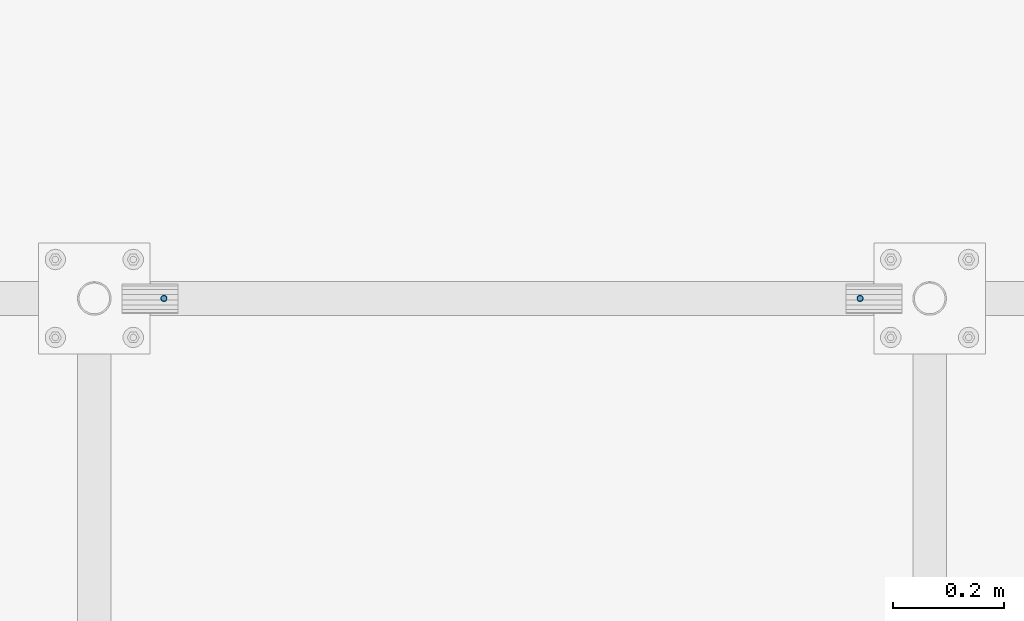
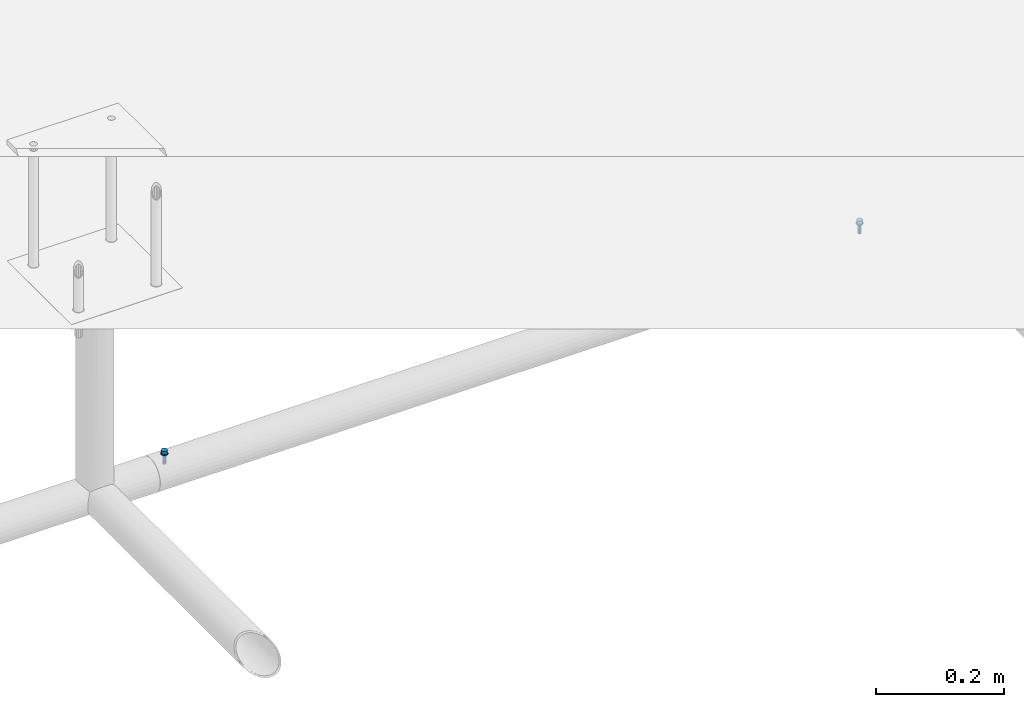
# One storey, part 9 of 30: 2 mechanical fasteners.
"""IFC2X3 building model written with IfcOpenShell, lengths in millimetres."""

from ifc_helpers import new_model, entity, si_unit, converted_unit, origin_with_axes, place, context, project, spatial, faceted_brep, element, save


model = new_model("IFC2X3")

# Units and contexts
model_context = context("Model", 3, precision=1e-09, world=origin_with_axes())
ifc_project = project(units=[si_unit("LENGTHUNIT", "METRE", prefix="MILLI"), si_unit("AREAUNIT", "SQUARE_METRE"), si_unit("VOLUMEUNIT", "CUBIC_METRE"), converted_unit("PLANEANGLEUNIT", "DEGREE", entity("IfcPlaneAngleMeasure", 0.01745329), si_unit("PLANEANGLEUNIT", "RADIAN"), dimensions=[0, 0, 0, 0, 0, 0, 0])], contexts=[model_context])

# Site, building, storey
site_placement = place(None, origin_with_axes())
site = spatial("IfcSite", under=ifc_project, at=site_placement, Name="M?nsinger Stra?e, 81477 M?nchen", CompositionType="ELEMENT")
building_placement = place(site_placement, origin_with_axes())
building = spatial("IfcBuilding", under=site, at=building_placement, Name="Struktur 1", CompositionType="ELEMENT")
storey_placement = place(building_placement, origin_with_axes())
storey = spatial("IfcBuildingStorey", under=building, at=storey_placement, Name="Default Storey", CompositionType="ELEMENT", Elevation=0.0)

# Mechanical fasteners
mechanical_fastener_1_placement = place(None, origin_with_axes())
element("IfcMechanicalFastener", 1, at=mechanical_fastener_1_placement, inside=storey, ObjectType="-", NominalDiameter=6.0, NominalLength=20.0, context=model_context, shape_type="Brep", body=[
    faceted_brep([(3025.315117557, 4491.2632594, 6141.75), (3025.315117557, 4491.2632594, 6140.15), (3025.430405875, 4490.092717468, 6140.15), (3025.430405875, 4490.092717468, 6141.75), (3025.771840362, 4488.967158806, 6140.15), (3025.771840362, 4488.967158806, 6141.75), (3026.326299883, 4487.929838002, 6140.15), (3026.326299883, 4487.929838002, 6141.75), (3027.07247687, 4487.020618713, 6140.15), (3027.07247687, 4487.020618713, 6141.75), (3027.981696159, 4486.274441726, 6140.15), (3027.981696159, 4486.274441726, 6141.75), (3029.019016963, 4485.719982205, 6140.15), (3029.019016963, 4485.719982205, 6141.75), (3030.144575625, 4485.378547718, 6140.15), (3030.144575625, 4485.378547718, 6141.75), (3031.315117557, 4485.2632594, 6140.15), (3031.315117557, 4485.2632594, 6141.75), (3032.485659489, 4485.378547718, 6140.15), (3032.485659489, 4485.378547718, 6141.75), (3033.611218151, 4485.719982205, 6140.15), (3033.611218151, 4485.719982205, 6141.75), (3034.648538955, 4486.274441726, 6140.15), (3034.648538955, 4486.274441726, 6141.75), (3035.557758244, 4487.020618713, 6140.15), (3035.557758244, 4487.020618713, 6141.75), (3036.303935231, 4487.929838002, 6140.15), (3036.303935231, 4487.929838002, 6141.75), (3036.858394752, 4488.967158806, 6140.15), (3036.858394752, 4488.967158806, 6141.75), (3037.199829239, 4490.092717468, 6140.15), (3037.199829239, 4490.092717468, 6141.75), (3037.315117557, 4491.2632594, 6140.15), (3037.315117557, 4491.2632594, 6141.75), (3037.199829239, 4492.433801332, 6140.15), (3037.199829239, 4492.433801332, 6141.75), (3036.858394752, 4493.559359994, 6140.15), (3036.858394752, 4493.559359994, 6141.75), (3036.303935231, 4494.596680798, 6140.15), (3036.303935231, 4494.596680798, 6141.75), (3035.557758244, 4495.505900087, 6140.15), (3035.557758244, 4495.505900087, 6141.75), (3034.648538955, 4496.252077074, 6140.15), (3034.648538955, 4496.252077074, 6141.75), (3033.611218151, 4496.806536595, 6140.15), (3033.611218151, 4496.806536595, 6141.75), (3032.485659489, 4497.147971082, 6140.15), (3032.485659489, 4497.147971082, 6141.75), (3031.315117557, 4497.2632594, 6140.15), (3031.315117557, 4497.2632594, 6141.75), (3030.144575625, 4497.147971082, 6140.15), (3030.144575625, 4497.147971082, 6141.75), (3029.019016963, 4496.806536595, 6140.15), (3029.019016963, 4496.806536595, 6141.75), (3027.981696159, 4496.252077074, 6140.15), (3027.981696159, 4496.252077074, 6141.75), (3027.07247687, 4495.505900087, 6140.15), (3027.07247687, 4495.505900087, 6141.75), (3026.326299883, 4494.596680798, 6140.15), (3026.326299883, 4494.596680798, 6141.75), (3025.771840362, 4493.559359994, 6140.15), (3025.771840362, 4493.559359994, 6141.75), (3025.430405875, 4492.433801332, 6140.15), (3025.430405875, 4492.433801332, 6141.75)], [[[0, 1, 2, 3]], [[3, 2, 4, 5]], [[5, 4, 6, 7]], [[7, 6, 8, 9]], [[9, 8, 10, 11]], [[11, 10, 12, 13]], [[13, 12, 14, 15]], [[15, 14, 16, 17]], [[17, 16, 18, 19]], [[19, 18, 20, 21]], [[21, 20, 22, 23]], [[23, 22, 24, 25]], [[25, 24, 26, 27]], [[27, 26, 28, 29]], [[29, 28, 30, 31]], [[31, 30, 32, 33]], [[33, 32, 34, 35]], [[35, 34, 36, 37]], [[37, 36, 38, 39]], [[39, 38, 40, 41]], [[41, 40, 42, 43]], [[43, 42, 44, 45]], [[45, 44, 46, 47]], [[47, 46, 48, 49]], [[49, 48, 50, 51]], [[51, 50, 52, 53]], [[53, 52, 54, 55]], [[55, 54, 56, 57]], [[57, 56, 58, 59]], [[59, 58, 60, 61]], [[61, 60, 62, 63]], [[63, 62, 1, 0]], [[0, 3, 5, 7, 9, 11, 13, 15, 17, 19, 21, 23, 25, 27, 29, 31, 33, 35, 37, 39, 41, 43, 45, 47, 49, 51, 53, 55, 57, 59, 61, 63]], [[1, 62, 60, 58, 56, 54, 52, 50, 48, 46, 44, 42, 40, 38, 36, 34, 32, 30, 28, 26, 24, 22, 20, 18, 16, 14, 12, 10, 8, 6, 4, 2]]]),
    faceted_brep([(3026.315117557, 4491.2632594, 6147.75), (3026.315117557, 4491.2632594, 6141.75), (3026.411191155, 4490.28780779, 6141.75), (3026.411191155, 4490.28780779, 6147.75), (3026.695719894, 4489.349842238, 6141.75), (3026.695719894, 4489.349842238, 6147.75), (3027.157769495, 4488.485408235, 6141.75), (3027.157769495, 4488.485408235, 6147.75), (3027.779583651, 4487.727725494, 6141.75), (3027.779583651, 4487.727725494, 6147.75), (3028.537266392, 4487.105911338, 6141.75), (3028.537266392, 4487.105911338, 6147.75), (3029.401700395, 4486.643861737, 6141.75), (3029.401700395, 4486.643861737, 6147.75), (3030.339665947, 4486.359332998, 6141.75), (3030.339665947, 4486.359332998, 6147.75), (3031.315117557, 4486.2632594, 6141.75), (3031.315117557, 4486.2632594, 6147.75), (3032.290569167, 4486.359332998, 6141.75), (3032.290569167, 4486.359332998, 6147.75), (3033.228534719, 4486.643861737, 6141.75), (3033.228534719, 4486.643861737, 6147.75), (3034.092968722, 4487.105911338, 6141.75), (3034.092968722, 4487.105911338, 6147.75), (3034.850651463, 4487.727725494, 6141.75), (3034.850651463, 4487.727725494, 6147.75), (3035.472465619, 4488.485408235, 6141.75), (3035.472465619, 4488.485408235, 6147.75), (3035.93451522, 4489.349842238, 6141.75), (3035.93451522, 4489.349842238, 6147.75), (3036.219043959, 4490.28780779, 6141.75), (3036.219043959, 4490.28780779, 6147.75), (3036.315117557, 4491.2632594, 6141.75), (3036.315117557, 4491.2632594, 6147.75), (3036.219043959, 4492.23871101, 6141.75), (3036.219043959, 4492.23871101, 6147.75), (3035.93451522, 4493.176676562, 6141.75), (3035.93451522, 4493.176676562, 6147.75), (3035.472465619, 4494.041110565, 6141.75), (3035.472465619, 4494.041110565, 6147.75), (3034.850651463, 4494.798793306, 6141.75), (3034.850651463, 4494.798793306, 6147.75), (3034.092968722, 4495.420607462, 6141.75), (3034.092968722, 4495.420607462, 6147.75), (3033.228534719, 4495.882657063, 6141.75), (3033.228534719, 4495.882657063, 6147.75), (3032.290569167, 4496.167185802, 6141.75), (3032.290569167, 4496.167185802, 6147.75), (3031.315117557, 4496.2632594, 6141.75), (3031.315117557, 4496.2632594, 6147.75), (3030.339665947, 4496.167185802, 6141.75), (3030.339665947, 4496.167185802, 6147.75), (3029.401700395, 4495.882657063, 6141.75), (3029.401700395, 4495.882657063, 6147.75), (3028.537266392, 4495.420607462, 6141.75), (3028.537266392, 4495.420607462, 6147.75), (3027.779583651, 4494.798793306, 6141.75), (3027.779583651, 4494.798793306, 6147.75), (3027.157769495, 4494.041110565, 6141.75), (3027.157769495, 4494.041110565, 6147.75), (3026.695719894, 4493.176676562, 6141.75), (3026.695719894, 4493.176676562, 6147.75), (3026.411191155, 4492.23871101, 6141.75), (3026.411191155, 4492.23871101, 6147.75)], [[[0, 1, 2, 3]], [[3, 2, 4, 5]], [[5, 4, 6, 7]], [[7, 6, 8, 9]], [[9, 8, 10, 11]], [[11, 10, 12, 13]], [[13, 12, 14, 15]], [[15, 14, 16, 17]], [[17, 16, 18, 19]], [[19, 18, 20, 21]], [[21, 20, 22, 23]], [[23, 22, 24, 25]], [[25, 24, 26, 27]], [[27, 26, 28, 29]], [[29, 28, 30, 31]], [[31, 30, 32, 33]], [[33, 32, 34, 35]], [[35, 34, 36, 37]], [[37, 36, 38, 39]], [[39, 38, 40, 41]], [[41, 40, 42, 43]], [[43, 42, 44, 45]], [[45, 44, 46, 47]], [[47, 46, 48, 49]], [[49, 48, 50, 51]], [[51, 50, 52, 53]], [[53, 52, 54, 55]], [[55, 54, 56, 57]], [[57, 56, 58, 59]], [[59, 58, 60, 61]], [[61, 60, 62, 63]], [[63, 62, 1, 0]], [[0, 3, 5, 7, 9, 11, 13, 15, 17, 19, 21, 23, 25, 27, 29, 31, 33, 35, 37, 39, 41, 43, 45, 47, 49, 51, 53, 55, 57, 59, 61, 63]], [[1, 62, 60, 58, 56, 54, 52, 50, 48, 46, 44, 42, 40, 38, 36, 34, 32, 30, 28, 26, 24, 22, 20, 18, 16, 14, 12, 10, 8, 6, 4, 2]]]),
    faceted_brep([(3028.315117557, 4491.2632594, 6140.15), (3028.315117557, 4491.2632594, 6130.585197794), (3028.543478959, 4490.115209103, 6130.585197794), (3028.543478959, 4490.115209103, 6140.15), (3029.193797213, 4489.141939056, 6130.585197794), (3029.193797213, 4489.141939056, 6140.15), (3030.16706726, 4488.491620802, 6130.585197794), (3030.16706726, 4488.491620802, 6140.15), (3031.315117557, 4488.2632594, 6130.585197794), (3031.315117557, 4488.2632594, 6140.15), (3032.463167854, 4488.491620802, 6130.585197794), (3032.463167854, 4488.491620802, 6140.15), (3033.436437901, 4489.141939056, 6130.585197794), (3033.436437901, 4489.141939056, 6140.15), (3034.086756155, 4490.115209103, 6130.585197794), (3034.086756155, 4490.115209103, 6140.15), (3034.315117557, 4491.2632594, 6130.585197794), (3034.315117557, 4491.2632594, 6140.15), (3034.086756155, 4492.411309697, 6130.585197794), (3034.086756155, 4492.411309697, 6140.15), (3033.436437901, 4493.384579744, 6130.585197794), (3033.436437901, 4493.384579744, 6140.15), (3032.463167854, 4494.034897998, 6130.585197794), (3032.463167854, 4494.034897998, 6140.15), (3031.315117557, 4494.2632594, 6130.585197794), (3031.315117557, 4494.2632594, 6140.15), (3030.16706726, 4494.034897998, 6130.585197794), (3030.16706726, 4494.034897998, 6140.15), (3029.193797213, 4493.384579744, 6130.585197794), (3029.193797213, 4493.384579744, 6140.15), (3028.543478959, 4492.411309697, 6130.585197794), (3028.543478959, 4492.411309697, 6140.15)], [[[0, 1, 2, 3]], [[3, 2, 4, 5]], [[5, 4, 6, 7]], [[7, 6, 8, 9]], [[9, 8, 10, 11]], [[11, 10, 12, 13]], [[13, 12, 14, 15]], [[15, 14, 16, 17]], [[17, 16, 18, 19]], [[19, 18, 20, 21]], [[21, 20, 22, 23]], [[23, 22, 24, 25]], [[25, 24, 26, 27]], [[27, 26, 28, 29]], [[29, 28, 30, 31]], [[31, 30, 1, 0]], [[0, 3, 5, 7, 9, 11, 13, 15, 17, 19, 21, 23, 25, 27, 29, 31]], [[1, 30, 28, 26, 24, 22, 20, 18, 16, 14, 12, 10, 8, 6, 4, 2]]]),
    faceted_brep([(3028.315117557, 4491.2632594, 6130.585197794), (3028.315117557, 4491.2632594, 6121.75), (3028.543478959, 4490.115209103, 6121.75), (3028.543478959, 4490.115209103, 6130.585197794), (3029.193797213, 4489.141939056, 6121.75), (3029.193797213, 4489.141939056, 6130.585197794), (3030.16706726, 4488.491620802, 6121.75), (3030.16706726, 4488.491620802, 6130.585197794), (3031.315117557, 4488.2632594, 6121.75), (3031.315117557, 4488.2632594, 6130.585197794), (3032.463167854, 4488.491620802, 6121.75), (3032.463167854, 4488.491620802, 6130.585197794), (3033.436437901, 4489.141939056, 6121.75), (3033.436437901, 4489.141939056, 6130.585197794), (3034.086756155, 4490.115209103, 6121.75), (3034.086756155, 4490.115209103, 6130.585197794), (3034.315117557, 4491.2632594, 6121.75), (3034.315117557, 4491.2632594, 6130.585197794), (3034.086756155, 4492.411309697, 6121.75), (3034.086756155, 4492.411309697, 6130.585197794), (3033.436437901, 4493.384579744, 6121.75), (3033.436437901, 4493.384579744, 6130.585197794), (3032.463167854, 4494.034897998, 6121.75), (3032.463167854, 4494.034897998, 6130.585197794), (3031.315117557, 4494.2632594, 6121.75), (3031.315117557, 4494.2632594, 6130.585197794), (3030.16706726, 4494.034897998, 6121.75), (3030.16706726, 4494.034897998, 6130.585197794), (3029.193797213, 4493.384579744, 6121.75), (3029.193797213, 4493.384579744, 6130.585197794), (3028.543478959, 4492.411309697, 6121.75), (3028.543478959, 4492.411309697, 6130.585197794)], [[[0, 1, 2, 3]], [[3, 2, 4, 5]], [[5, 4, 6, 7]], [[7, 6, 8, 9]], [[9, 8, 10, 11]], [[11, 10, 12, 13]], [[13, 12, 14, 15]], [[15, 14, 16, 17]], [[17, 16, 18, 19]], [[19, 18, 20, 21]], [[21, 20, 22, 23]], [[23, 22, 24, 25]], [[25, 24, 26, 27]], [[27, 26, 28, 29]], [[29, 28, 30, 31]], [[31, 30, 1, 0]], [[0, 3, 5, 7, 9, 11, 13, 15, 17, 19, 21, 23, 25, 27, 29, 31]], [[1, 30, 28, 26, 24, 22, 20, 18, 16, 14, 12, 10, 8, 6, 4, 2]]]),
])
mechanical_fastener_2_placement = place(None, origin_with_axes())
element("IfcMechanicalFastener", 2, at=mechanical_fastener_2_placement, inside=storey, ObjectType="-", NominalDiameter=6.0, NominalLength=20.0, context=model_context, shape_type="Brep", body=[
    faceted_brep([(4287.315117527, 4491.2632594, 6140.15), (4287.315117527, 4491.2632594, 6141.75), (4287.19982921, 4490.092717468, 6141.75), (4287.19982921, 4490.092717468, 6140.15), (4286.858394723, 4488.967158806, 6141.75), (4286.858394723, 4488.967158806, 6140.15), (4286.303935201, 4487.929838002, 6141.75), (4286.303935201, 4487.929838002, 6140.15), (4285.557758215, 4487.020618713, 6141.75), (4285.557758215, 4487.020618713, 6140.15), (4284.648538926, 4486.274441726, 6141.75), (4284.648538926, 4486.274441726, 6140.15), (4283.611218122, 4485.719982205, 6141.75), (4283.611218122, 4485.719982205, 6140.15), (4282.48565946, 4485.378547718, 6141.75), (4282.48565946, 4485.378547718, 6140.15), (4281.315117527, 4485.2632594, 6141.75), (4281.315117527, 4485.2632594, 6140.15), (4280.144575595, 4485.378547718, 6141.75), (4280.144575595, 4485.378547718, 6140.15), (4279.019016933, 4485.719982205, 6141.75), (4279.019016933, 4485.719982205, 6140.15), (4277.981696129, 4486.274441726, 6141.75), (4277.981696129, 4486.274441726, 6140.15), (4277.07247684, 4487.020618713, 6141.75), (4277.07247684, 4487.020618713, 6140.15), (4276.326299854, 4487.929838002, 6141.75), (4276.326299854, 4487.929838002, 6140.15), (4275.771840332, 4488.967158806, 6141.75), (4275.771840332, 4488.967158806, 6140.15), (4275.430405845, 4490.092717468, 6141.75), (4275.430405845, 4490.092717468, 6140.15), (4275.315117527, 4491.2632594, 6141.75), (4275.315117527, 4491.2632594, 6140.15), (4275.430405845, 4492.433801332, 6141.75), (4275.430405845, 4492.433801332, 6140.15), (4275.771840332, 4493.559359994, 6141.75), (4275.771840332, 4493.559359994, 6140.15), (4276.326299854, 4494.596680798, 6141.75), (4276.326299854, 4494.596680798, 6140.15), (4277.07247684, 4495.505900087, 6141.75), (4277.07247684, 4495.505900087, 6140.15), (4277.981696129, 4496.252077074, 6141.75), (4277.981696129, 4496.252077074, 6140.15), (4279.019016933, 4496.806536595, 6141.75), (4279.019016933, 4496.806536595, 6140.15), (4280.144575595, 4497.147971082, 6141.75), (4280.144575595, 4497.147971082, 6140.15), (4281.315117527, 4497.2632594, 6141.75), (4281.315117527, 4497.2632594, 6140.15), (4282.48565946, 4497.147971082, 6141.75), (4282.48565946, 4497.147971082, 6140.15), (4283.611218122, 4496.806536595, 6141.75), (4283.611218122, 4496.806536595, 6140.15), (4284.648538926, 4496.252077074, 6141.75), (4284.648538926, 4496.252077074, 6140.15), (4285.557758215, 4495.505900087, 6141.75), (4285.557758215, 4495.505900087, 6140.15), (4286.303935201, 4494.596680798, 6141.75), (4286.303935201, 4494.596680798, 6140.15), (4286.858394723, 4493.559359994, 6141.75), (4286.858394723, 4493.559359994, 6140.15), (4287.19982921, 4492.433801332, 6141.75), (4287.19982921, 4492.433801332, 6140.15)], [[[0, 1, 2, 3]], [[3, 2, 4, 5]], [[5, 4, 6, 7]], [[7, 6, 8, 9]], [[9, 8, 10, 11]], [[11, 10, 12, 13]], [[13, 12, 14, 15]], [[15, 14, 16, 17]], [[17, 16, 18, 19]], [[19, 18, 20, 21]], [[21, 20, 22, 23]], [[23, 22, 24, 25]], [[25, 24, 26, 27]], [[27, 26, 28, 29]], [[29, 28, 30, 31]], [[31, 30, 32, 33]], [[33, 32, 34, 35]], [[35, 34, 36, 37]], [[37, 36, 38, 39]], [[39, 38, 40, 41]], [[41, 40, 42, 43]], [[43, 42, 44, 45]], [[45, 44, 46, 47]], [[47, 46, 48, 49]], [[49, 48, 50, 51]], [[51, 50, 52, 53]], [[53, 52, 54, 55]], [[55, 54, 56, 57]], [[57, 56, 58, 59]], [[59, 58, 60, 61]], [[61, 60, 62, 63]], [[63, 62, 1, 0]], [[2, 1, 62, 60, 58, 56, 54, 52, 50, 48, 46, 44, 42, 40, 38, 36, 34, 32, 30, 28, 26, 24, 22, 20, 18, 16, 14, 12, 10, 8, 6, 4]], [[63, 0, 3, 5, 7, 9, 11, 13, 15, 17, 19, 21, 23, 25, 27, 29, 31, 33, 35, 37, 39, 41, 43, 45, 47, 49, 51, 53, 55, 57, 59, 61]]]),
    faceted_brep([(4286.315117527, 4491.2632594, 6141.75), (4286.315117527, 4491.2632594, 6147.75), (4286.219043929, 4490.28780779, 6147.75), (4286.219043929, 4490.28780779, 6141.75), (4285.93451519, 4489.349842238, 6147.75), (4285.93451519, 4489.349842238, 6141.75), (4285.472465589, 4488.485408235, 6147.75), (4285.472465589, 4488.485408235, 6141.75), (4284.850651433, 4487.727725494, 6147.75), (4284.850651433, 4487.727725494, 6141.75), (4284.092968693, 4487.105911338, 6147.75), (4284.092968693, 4487.105911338, 6141.75), (4283.228534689, 4486.643861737, 6147.75), (4283.228534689, 4486.643861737, 6141.75), (4282.290569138, 4486.359332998, 6147.75), (4282.290569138, 4486.359332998, 6141.75), (4281.315117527, 4486.2632594, 6147.75), (4281.315117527, 4486.2632594, 6141.75), (4280.339665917, 4486.359332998, 6147.75), (4280.339665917, 4486.359332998, 6141.75), (4279.401700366, 4486.643861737, 6147.75), (4279.401700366, 4486.643861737, 6141.75), (4278.537266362, 4487.105911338, 6147.75), (4278.537266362, 4487.105911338, 6141.75), (4277.779583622, 4487.727725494, 6147.75), (4277.779583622, 4487.727725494, 6141.75), (4277.157769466, 4488.485408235, 6147.75), (4277.157769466, 4488.485408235, 6141.75), (4276.695719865, 4489.349842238, 6147.75), (4276.695719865, 4489.349842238, 6141.75), (4276.411191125, 4490.28780779, 6147.75), (4276.411191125, 4490.28780779, 6141.75), (4276.315117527, 4491.2632594, 6147.75), (4276.315117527, 4491.2632594, 6141.75), (4276.411191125, 4492.23871101, 6147.75), (4276.411191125, 4492.23871101, 6141.75), (4276.695719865, 4493.176676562, 6147.75), (4276.695719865, 4493.176676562, 6141.75), (4277.157769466, 4494.041110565, 6147.75), (4277.157769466, 4494.041110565, 6141.75), (4277.779583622, 4494.798793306, 6147.75), (4277.779583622, 4494.798793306, 6141.75), (4278.537266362, 4495.420607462, 6147.75), (4278.537266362, 4495.420607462, 6141.75), (4279.401700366, 4495.882657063, 6147.75), (4279.401700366, 4495.882657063, 6141.75), (4280.339665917, 4496.167185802, 6147.75), (4280.339665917, 4496.167185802, 6141.75), (4281.315117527, 4496.2632594, 6147.75), (4281.315117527, 4496.2632594, 6141.75), (4282.290569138, 4496.167185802, 6147.75), (4282.290569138, 4496.167185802, 6141.75), (4283.228534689, 4495.882657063, 6147.75), (4283.228534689, 4495.882657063, 6141.75), (4284.092968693, 4495.420607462, 6147.75), (4284.092968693, 4495.420607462, 6141.75), (4284.850651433, 4494.798793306, 6147.75), (4284.850651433, 4494.798793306, 6141.75), (4285.472465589, 4494.041110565, 6147.75), (4285.472465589, 4494.041110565, 6141.75), (4285.93451519, 4493.176676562, 6147.75), (4285.93451519, 4493.176676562, 6141.75), (4286.219043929, 4492.23871101, 6147.75), (4286.219043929, 4492.23871101, 6141.75)], [[[0, 1, 2, 3]], [[3, 2, 4, 5]], [[5, 4, 6, 7]], [[7, 6, 8, 9]], [[9, 8, 10, 11]], [[11, 10, 12, 13]], [[13, 12, 14, 15]], [[15, 14, 16, 17]], [[17, 16, 18, 19]], [[19, 18, 20, 21]], [[21, 20, 22, 23]], [[23, 22, 24, 25]], [[25, 24, 26, 27]], [[27, 26, 28, 29]], [[29, 28, 30, 31]], [[31, 30, 32, 33]], [[33, 32, 34, 35]], [[35, 34, 36, 37]], [[37, 36, 38, 39]], [[39, 38, 40, 41]], [[41, 40, 42, 43]], [[43, 42, 44, 45]], [[45, 44, 46, 47]], [[47, 46, 48, 49]], [[49, 48, 50, 51]], [[51, 50, 52, 53]], [[53, 52, 54, 55]], [[55, 54, 56, 57]], [[57, 56, 58, 59]], [[59, 58, 60, 61]], [[61, 60, 62, 63]], [[63, 62, 1, 0]], [[2, 1, 62, 60, 58, 56, 54, 52, 50, 48, 46, 44, 42, 40, 38, 36, 34, 32, 30, 28, 26, 24, 22, 20, 18, 16, 14, 12, 10, 8, 6, 4]], [[63, 0, 3, 5, 7, 9, 11, 13, 15, 17, 19, 21, 23, 25, 27, 29, 31, 33, 35, 37, 39, 41, 43, 45, 47, 49, 51, 53, 55, 57, 59, 61]]]),
    faceted_brep([(4284.315117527, 4491.2632594, 6130.585197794), (4284.315117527, 4491.2632594, 6140.15), (4284.086756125, 4490.115209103, 6140.15), (4284.086756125, 4490.115209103, 6130.585197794), (4283.436437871, 4489.141939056, 6140.15), (4283.436437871, 4489.141939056, 6130.585197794), (4282.463167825, 4488.491620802, 6140.15), (4282.463167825, 4488.491620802, 6130.585197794), (4281.315117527, 4488.2632594, 6140.15), (4281.315117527, 4488.2632594, 6130.585197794), (4280.16706723, 4488.491620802, 6140.15), (4280.16706723, 4488.491620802, 6130.585197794), (4279.193797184, 4489.141939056, 6140.15), (4279.193797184, 4489.141939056, 6130.585197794), (4278.54347893, 4490.115209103, 6140.15), (4278.54347893, 4490.115209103, 6130.585197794), (4278.315117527, 4491.2632594, 6140.15), (4278.315117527, 4491.2632594, 6130.585197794), (4278.54347893, 4492.411309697, 6140.15), (4278.54347893, 4492.411309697, 6130.585197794), (4279.193797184, 4493.384579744, 6140.15), (4279.193797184, 4493.384579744, 6130.585197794), (4280.16706723, 4494.034897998, 6140.15), (4280.16706723, 4494.034897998, 6130.585197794), (4281.315117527, 4494.2632594, 6140.15), (4281.315117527, 4494.2632594, 6130.585197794), (4282.463167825, 4494.034897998, 6140.15), (4282.463167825, 4494.034897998, 6130.585197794), (4283.436437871, 4493.384579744, 6140.15), (4283.436437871, 4493.384579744, 6130.585197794), (4284.086756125, 4492.411309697, 6140.15), (4284.086756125, 4492.411309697, 6130.585197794)], [[[0, 1, 2, 3]], [[3, 2, 4, 5]], [[5, 4, 6, 7]], [[7, 6, 8, 9]], [[9, 8, 10, 11]], [[11, 10, 12, 13]], [[13, 12, 14, 15]], [[15, 14, 16, 17]], [[17, 16, 18, 19]], [[19, 18, 20, 21]], [[21, 20, 22, 23]], [[23, 22, 24, 25]], [[25, 24, 26, 27]], [[27, 26, 28, 29]], [[29, 28, 30, 31]], [[31, 30, 1, 0]], [[2, 1, 30, 28, 26, 24, 22, 20, 18, 16, 14, 12, 10, 8, 6, 4]], [[31, 0, 3, 5, 7, 9, 11, 13, 15, 17, 19, 21, 23, 25, 27, 29]]]),
    faceted_brep([(4284.315117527, 4491.2632594, 6121.75), (4284.315117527, 4491.2632594, 6130.585197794), (4284.086756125, 4490.115209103, 6130.585197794), (4284.086756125, 4490.115209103, 6121.75), (4283.436437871, 4489.141939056, 6130.585197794), (4283.436437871, 4489.141939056, 6121.75), (4282.463167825, 4488.491620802, 6130.585197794), (4282.463167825, 4488.491620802, 6121.75), (4281.315117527, 4488.2632594, 6130.585197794), (4281.315117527, 4488.2632594, 6121.75), (4280.16706723, 4488.491620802, 6130.585197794), (4280.16706723, 4488.491620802, 6121.75), (4279.193797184, 4489.141939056, 6130.585197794), (4279.193797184, 4489.141939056, 6121.75), (4278.54347893, 4490.115209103, 6130.585197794), (4278.54347893, 4490.115209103, 6121.75), (4278.315117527, 4491.2632594, 6130.585197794), (4278.315117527, 4491.2632594, 6121.75), (4278.54347893, 4492.411309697, 6130.585197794), (4278.54347893, 4492.411309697, 6121.75), (4279.193797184, 4493.384579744, 6130.585197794), (4279.193797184, 4493.384579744, 6121.75), (4280.16706723, 4494.034897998, 6130.585197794), (4280.16706723, 4494.034897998, 6121.75), (4281.315117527, 4494.2632594, 6130.585197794), (4281.315117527, 4494.2632594, 6121.75), (4282.463167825, 4494.034897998, 6130.585197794), (4282.463167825, 4494.034897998, 6121.75), (4283.436437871, 4493.384579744, 6130.585197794), (4283.436437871, 4493.384579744, 6121.75), (4284.086756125, 4492.411309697, 6130.585197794), (4284.086756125, 4492.411309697, 6121.75)], [[[0, 1, 2, 3]], [[3, 2, 4, 5]], [[5, 4, 6, 7]], [[7, 6, 8, 9]], [[9, 8, 10, 11]], [[11, 10, 12, 13]], [[13, 12, 14, 15]], [[15, 14, 16, 17]], [[17, 16, 18, 19]], [[19, 18, 20, 21]], [[21, 20, 22, 23]], [[23, 22, 24, 25]], [[25, 24, 26, 27]], [[27, 26, 28, 29]], [[29, 28, 30, 31]], [[31, 30, 1, 0]], [[2, 1, 30, 28, 26, 24, 22, 20, 18, 16, 14, 12, 10, 8, 6, 4]], [[31, 0, 3, 5, 7, 9, 11, 13, 15, 17, 19, 21, 23, 25, 27, 29]]]),
])

save(model, "model.ifc")
